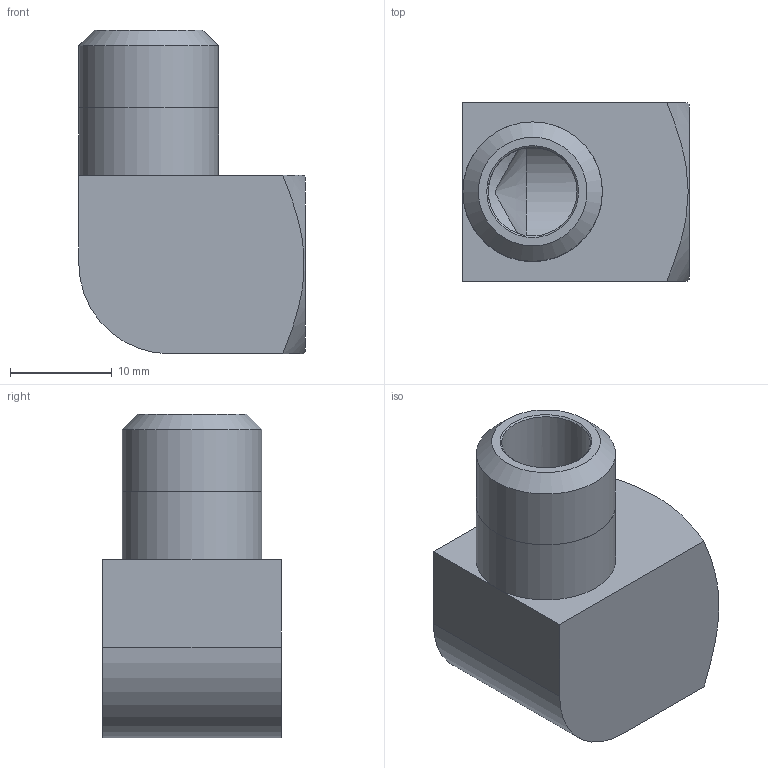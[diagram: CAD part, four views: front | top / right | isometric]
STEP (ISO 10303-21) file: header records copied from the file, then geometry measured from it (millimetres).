
FILE_DESCRIPTION(/* description */ (''),/* implementation_level */ '2;1');
FILE_NAME(/* name */ 'C:/Users/drich/Desktop/SL-14 v1.step',/* time_stamp */ '2020-02-09T11:06:48-06:00',/* author */ (''),/* organization */ (''),/* preprocessor_version */ 'ST-DEVELOPER v18',/* originating_system */ 'Autodesk Translation Framework v8.12.0.6',/* authorisation */ '');
FILE_SCHEMA (('AP203_CONFIGURATION_CONTROLLED_3D_DESIGN_OF_MECHANICAL_PARTS_AND_ASSEMBLIES_MIM_LF { 1 0 10303 203 3 1 4 }','AUTOMOTIVE_DESIGN { 1 0 10303 214 3 1 1 }'));
Length unit declared in the file: inch
Products named in the file (1): SL-14
Bounding box: 22.23 x 17.53 x 31.75 mm (x, y, z)
Volume: 5714.6 mm3; surface area: 3562.9 mm2
Topology: 1 solids, 1 shells, 21 faces, 50 edges, 33 vertices
Faces by surface type: plane 9, cone 6, cylinder 6
Full cylindrical faces by diameter (mm): 8.712 x1, 11.1 x1, 11.125 x1, 13.691 x1, 13.716 x1
Entity records: 712 total; most frequent: CARTESIAN_POINT 176, DIRECTION 107, ORIENTED_EDGE 100, EDGE_CURVE 50, AXIS2_PLACEMENT_3D 44, VERTEX_POINT 33, EDGE_LOOP 25, CIRCLE 22
